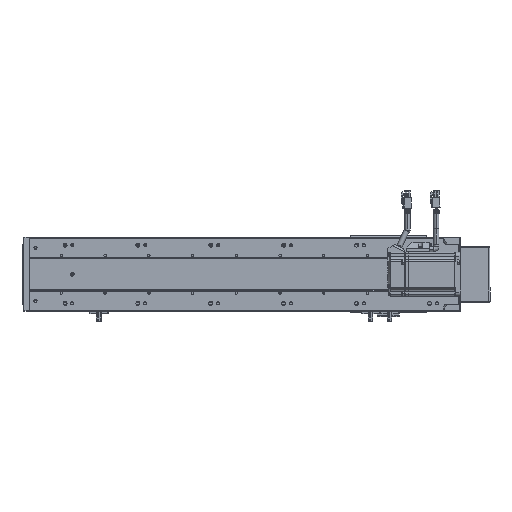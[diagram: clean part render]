
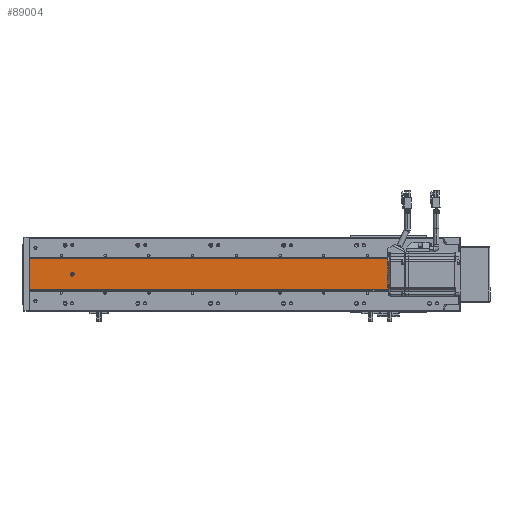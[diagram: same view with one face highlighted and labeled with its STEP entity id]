
A CAD part, front view. The second image highlights one B-rep face of the part: STEP entity #89004.
In plain terms, the highlighted planar face has unit normal (0, -1, 0).
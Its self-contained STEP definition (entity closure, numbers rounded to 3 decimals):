
#5998 = EDGE_CURVE ( 'NONE', #30517, #30514, #64388, .T. ) ;
#6109 = EDGE_CURVE ( 'NONE', #30576, #30529, #64540, .T. ) ;
#16251 = DIRECTION ( 'NONE',  ( 0., 0., -1. ) ) ;
#16259 = CARTESIAN_POINT ( 'NONE',  ( 118.817, 89.548, 589. ) ) ;
#17988 = VECTOR ( 'NONE', #16251, 1000. ) ;
#18007 = LINE ( 'NONE', #16259, #17988 ) ;
#18656 = CIRCLE ( 'NONE', #19924, 4.75 ) ;
#18730 = LINE ( 'NONE', #86715, #18770 ) ;
#18770 = VECTOR ( 'NONE', #86282, 1000. ) ;
#18785 = VECTOR ( 'NONE', #86289, 1000. ) ;
#18786 = CIRCLE ( 'NONE', #19913, 2.5 ) ;
#18790 = CIRCLE ( 'NONE', #19861, 4.75 ) ;
#18796 = CIRCLE ( 'NONE', #19930, 2.5 ) ;
#18800 = LINE ( 'NONE', #86716, #18785 ) ;
#19861 = AXIS2_PLACEMENT_3D ( 'NONE', #86261, #86279, #86270 ) ;
#19913 = AXIS2_PLACEMENT_3D ( 'NONE', #86291, #86271, #86266 ) ;
#19924 = AXIS2_PLACEMENT_3D ( 'NONE', #86660, #86702, #86679 ) ;
#19930 = AXIS2_PLACEMENT_3D ( 'NONE', #86274, #86285, #86254 ) ;
#29401 = DIRECTION ( 'NONE',  ( 1., 0., 0. ) ) ;
#29420 = CARTESIAN_POINT ( 'NONE',  ( 140.403, 89.548, 59. ) ) ;
#29425 = DIRECTION ( 'NONE',  ( 0., -1., 0. ) ) ;
#29492 = DIRECTION ( 'NONE',  ( 1., 0., 0. ) ) ;
#29507 = DIRECTION ( 'NONE',  ( 0., -1., 0. ) ) ;
#29523 = CARTESIAN_POINT ( 'NONE',  ( 140.403, 89.548, 559. ) ) ;
#30514 = VERTEX_POINT ( 'NONE', #58537 ) ;
#30517 = VERTEX_POINT ( 'NONE', #58550 ) ;
#30529 = VERTEX_POINT ( 'NONE', #58510 ) ;
#30576 = VERTEX_POINT ( 'NONE', #58572 ) ;
#30718 = VERTEX_POINT ( 'NONE', #58872 ) ;
#30729 = VERTEX_POINT ( 'NONE', #58874 ) ;
#30751 = VERTEX_POINT ( 'NONE', #58904 ) ;
#30806 = VERTEX_POINT ( 'NONE', #58990 ) ;
#30904 = VERTEX_POINT ( 'NONE', #59102 ) ;
#30908 = VERTEX_POINT ( 'NONE', #59254 ) ;
#30932 = VERTEX_POINT ( 'NONE', #59186 ) ;
#30956 = VERTEX_POINT ( 'NONE', #59277 ) ;
#30971 = VERTEX_POINT ( 'NONE', #59348 ) ;
#30978 = VERTEX_POINT ( 'NONE', #59374 ) ;
#30990 = VERTEX_POINT ( 'NONE', #59399 ) ;
#31301 = VERTEX_POINT ( 'NONE', #51947 ) ;
#45089 = EDGE_CURVE ( 'NONE', #30932, #30978, #18656, .T. ) ;
#45137 = EDGE_CURVE ( 'NONE', #30908, #30904, #18730, .T. ) ;
#45142 = EDGE_CURVE ( 'NONE', #30971, #30529, #18800, .T. ) ;
#45144 = EDGE_CURVE ( 'NONE', #30806, #30751, #18786, .T. ) ;
#45155 = EDGE_CURVE ( 'NONE', #31301, #30956, #18790, .T. ) ;
#45170 = EDGE_CURVE ( 'NONE', #30718, #30729, #18796, .T. ) ;
#45290 = EDGE_CURVE ( 'NONE', #30990, #31301, #18007, .T. ) ;
#50518 = EDGE_CURVE ( 'NONE', #30729, #30718, #81910, .T. ) ;
#50583 = EDGE_CURVE ( 'NONE', #30751, #30806, #81944, .T. ) ;
#50848 = EDGE_CURVE ( 'NONE', #30517, #30904, #82041, .T. ) ;
#50901 = EDGE_CURVE ( 'NONE', #30978, #30908, #82130, .T. ) ;
#51005 = EDGE_CURVE ( 'NONE', #30576, #30514, #82096, .T. ) ;
#51081 = EDGE_CURVE ( 'NONE', #30956, #30932, #82141, .T. ) ;
#51185 = EDGE_CURVE ( 'NONE', #30990, #30971, #82237, .T. ) ;
#51947 = CARTESIAN_POINT ( 'NONE',  ( 118.817, 89.548, 586.302 ) ) ;
#58510 = CARTESIAN_POINT ( 'NONE',  ( 161.989, 89.548, 586.302 ) ) ;
#58537 = CARTESIAN_POINT ( 'NONE',  ( 161.989, 89.548, 576.302 ) ) ;
#58550 = CARTESIAN_POINT ( 'NONE',  ( 161.989, 89.548, 569.698 ) ) ;
#58572 = CARTESIAN_POINT ( 'NONE',  ( 161.989, 89.548, 579.698 ) ) ;
#58638 = DIRECTION ( 'NONE',  ( 0., 1., 0. ) ) ;
#58647 = CARTESIAN_POINT ( 'NONE',  ( 165.403, 89.548, 573. ) ) ;
#58695 = DIRECTION ( 'NONE',  ( -1., 0., 0. ) ) ;
#58872 = CARTESIAN_POINT ( 'NONE',  ( 142.903, 89.548, 59. ) ) ;
#58874 = CARTESIAN_POINT ( 'NONE',  ( 137.903, 89.548, 59. ) ) ;
#58904 = CARTESIAN_POINT ( 'NONE',  ( 137.903, 89.548, 559. ) ) ;
#58990 = CARTESIAN_POINT ( 'NONE',  ( 142.903, 89.548, 559. ) ) ;
#59048 = DIRECTION ( 'NONE',  ( 0., 1., 0. ) ) ;
#59081 = CARTESIAN_POINT ( 'NONE',  ( 165.403, 89.548, 583. ) ) ;
#59102 = CARTESIAN_POINT ( 'NONE',  ( 161.989, 89.548, 0. ) ) ;
#59130 = DIRECTION ( 'NONE',  ( -1., 0., 0. ) ) ;
#59186 = CARTESIAN_POINT ( 'NONE',  ( 118.817, 89.548, 576.302 ) ) ;
#59254 = CARTESIAN_POINT ( 'NONE',  ( 118.817, 89.548, 0. ) ) ;
#59277 = CARTESIAN_POINT ( 'NONE',  ( 118.817, 89.548, 579.698 ) ) ;
#59348 = CARTESIAN_POINT ( 'NONE',  ( 161.989, 89.548, 589. ) ) ;
#59374 = CARTESIAN_POINT ( 'NONE',  ( 118.817, 89.548, 569.698 ) ) ;
#59399 = CARTESIAN_POINT ( 'NONE',  ( 118.817, 89.548, 589. ) ) ;
#61360 = PLANE ( 'NONE',  #85693 ) ;
#61366 = CARTESIAN_POINT ( 'NONE',  ( 161.989, 89.548, 589. ) ) ;
#61367 = DIRECTION ( 'NONE',  ( -1., 0., 0. ) ) ;
#61384 = DIRECTION ( 'NONE',  ( 0., 1., 0. ) ) ;
#63159 = FACE_BOUND ( 'NONE', #93498, .T. ) ;
#63191 = FACE_BOUND ( 'NONE', #93692, .T. ) ;
#63238 = FACE_OUTER_BOUND ( 'NONE', #93706, .T. ) ;
#64388 = CIRCLE ( 'NONE', #64677, 4.75 ) ;
#64540 = CIRCLE ( 'NONE', #64722, 4.75 ) ;
#64677 = AXIS2_PLACEMENT_3D ( 'NONE', #58647, #58638, #58695 ) ;
#64722 = AXIS2_PLACEMENT_3D ( 'NONE', #59081, #59048, #59130 ) ;
#81262 = DIRECTION ( 'NONE',  ( 0., 0., -1. ) ) ;
#81277 = CARTESIAN_POINT ( 'NONE',  ( 161.989, 89.548, 589. ) ) ;
#81308 = CARTESIAN_POINT ( 'NONE',  ( 118.817, 89.548, 589. ) ) ;
#81320 = DIRECTION ( 'NONE',  ( 0., 0., -1. ) ) ;
#81427 = DIRECTION ( 'NONE',  ( 0., 0., -1. ) ) ;
#81439 = CARTESIAN_POINT ( 'NONE',  ( 161.989, 89.548, 589. ) ) ;
#81516 = CARTESIAN_POINT ( 'NONE',  ( 118.817, 89.548, 589. ) ) ;
#81517 = DIRECTION ( 'NONE',  ( 0., 0., -1. ) ) ;
#81621 = DIRECTION ( 'NONE',  ( 1., 0., 0. ) ) ;
#81627 = CARTESIAN_POINT ( 'NONE',  ( 161.989, 89.548, 589. ) ) ;
#81910 = CIRCLE ( 'NONE', #83329, 2.5 ) ;
#81944 = CIRCLE ( 'NONE', #83364, 2.5 ) ;
#82040 = VECTOR ( 'NONE', #81262, 1000. ) ;
#82041 = LINE ( 'NONE', #81277, #82040 ) ;
#82087 = VECTOR ( 'NONE', #81427, 1000. ) ;
#82096 = LINE ( 'NONE', #81439, #82087 ) ;
#82125 = VECTOR ( 'NONE', #81320, 1000. ) ;
#82130 = LINE ( 'NONE', #81308, #82125 ) ;
#82141 = LINE ( 'NONE', #81516, #82169 ) ;
#82169 = VECTOR ( 'NONE', #81517, 1000. ) ;
#82229 = VECTOR ( 'NONE', #81621, 1000. ) ;
#82237 = LINE ( 'NONE', #81627, #82229 ) ;
#83329 = AXIS2_PLACEMENT_3D ( 'NONE', #29420, #29425, #29401 ) ;
#83364 = AXIS2_PLACEMENT_3D ( 'NONE', #29523, #29507, #29492 ) ;
#85693 = AXIS2_PLACEMENT_3D ( 'NONE', #61366, #61384, #61367 ) ;
#86254 = DIRECTION ( 'NONE',  ( 1., 0., 0. ) ) ;
#86261 = CARTESIAN_POINT ( 'NONE',  ( 115.403, 89.548, 583. ) ) ;
#86266 = DIRECTION ( 'NONE',  ( 1., 0., 0. ) ) ;
#86270 = DIRECTION ( 'NONE',  ( -1., 0., 0. ) ) ;
#86271 = DIRECTION ( 'NONE',  ( 0., -1., 0. ) ) ;
#86274 = CARTESIAN_POINT ( 'NONE',  ( 140.403, 89.548, 59. ) ) ;
#86279 = DIRECTION ( 'NONE',  ( 0., 1., 0. ) ) ;
#86282 = DIRECTION ( 'NONE',  ( 1., 0., 0. ) ) ;
#86285 = DIRECTION ( 'NONE',  ( 0., -1., 0. ) ) ;
#86289 = DIRECTION ( 'NONE',  ( 0., 0., -1. ) ) ;
#86291 = CARTESIAN_POINT ( 'NONE',  ( 140.403, 89.548, 559. ) ) ;
#86660 = CARTESIAN_POINT ( 'NONE',  ( 115.403, 89.548, 573. ) ) ;
#86679 = DIRECTION ( 'NONE',  ( -1., 0., 0. ) ) ;
#86702 = DIRECTION ( 'NONE',  ( 0., 1., 0. ) ) ;
#86715 = CARTESIAN_POINT ( 'NONE',  ( 161.989, 89.548, 0. ) ) ;
#86716 = CARTESIAN_POINT ( 'NONE',  ( 161.989, 89.548, 589. ) ) ;
#89004 = ADVANCED_FACE ( 'NONE', ( #63191, #63159, #63238 ), #61360, .F. ) ;
#93498 = EDGE_LOOP ( 'NONE', ( #98303, #98416 ) ) ;
#93692 = EDGE_LOOP ( 'NONE', ( #98323, #98396 ) ) ;
#93706 = EDGE_LOOP ( 'NONE', ( #98328, #98316, #98302, #98443, #98399, #98361, #98367, #98304, #98490, #98305, #98340, #98307 ) ) ;
#98302 = ORIENTED_EDGE ( 'NONE', *, *, #45142, .F. ) ;
#98303 = ORIENTED_EDGE ( 'NONE', *, *, #45170, .F. ) ;
#98304 = ORIENTED_EDGE ( 'NONE', *, *, #45089, .T. ) ;
#98305 = ORIENTED_EDGE ( 'NONE', *, *, #45137, .T. ) ;
#98307 = ORIENTED_EDGE ( 'NONE', *, *, #5998, .T. ) ;
#98316 = ORIENTED_EDGE ( 'NONE', *, *, #6109, .T. ) ;
#98323 = ORIENTED_EDGE ( 'NONE', *, *, #45144, .F. ) ;
#98328 = ORIENTED_EDGE ( 'NONE', *, *, #51005, .F. ) ;
#98340 = ORIENTED_EDGE ( 'NONE', *, *, #50848, .F. ) ;
#98361 = ORIENTED_EDGE ( 'NONE', *, *, #45155, .T. ) ;
#98367 = ORIENTED_EDGE ( 'NONE', *, *, #51081, .T. ) ;
#98396 = ORIENTED_EDGE ( 'NONE', *, *, #50583, .F. ) ;
#98399 = ORIENTED_EDGE ( 'NONE', *, *, #45290, .T. ) ;
#98416 = ORIENTED_EDGE ( 'NONE', *, *, #50518, .F. ) ;
#98443 = ORIENTED_EDGE ( 'NONE', *, *, #51185, .F. ) ;
#98490 = ORIENTED_EDGE ( 'NONE', *, *, #50901, .T. ) ;
